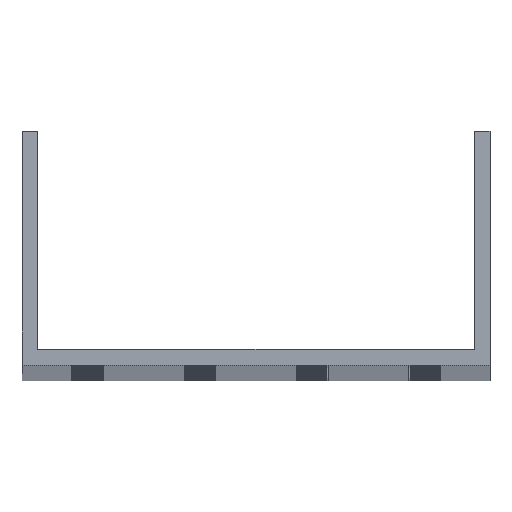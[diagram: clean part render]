
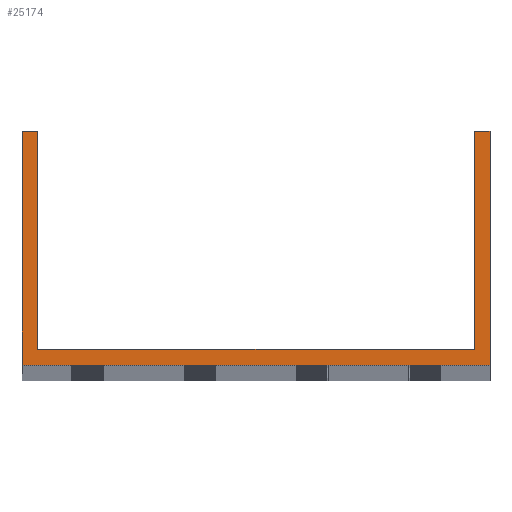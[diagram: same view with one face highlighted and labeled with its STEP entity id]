
A CAD part, top view. The second image highlights one B-rep face of the part: STEP entity #25174.
In plain terms, the highlighted planar face has unit normal (0, 0, 1).
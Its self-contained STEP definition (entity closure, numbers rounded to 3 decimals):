
#790 = CARTESIAN_POINT ( 'NONE',  ( -48.5, 3.5, 1000. ) ) ;
#1239 = CARTESIAN_POINT ( 'NONE',  ( -52., 52., 1000. ) ) ;
#1301 = DIRECTION ( 'NONE',  ( 1., 0., 0. ) ) ;
#1973 = VERTEX_POINT ( 'NONE', #21586 ) ;
#2550 = CARTESIAN_POINT ( 'NONE',  ( 52., 52., 1000. ) ) ;
#2970 = DIRECTION ( 'NONE',  ( 0., 1., 0. ) ) ;
#4193 = ORIENTED_EDGE ( 'NONE', *, *, #5422, .T. ) ;
#4783 = VERTEX_POINT ( 'NONE', #17696 ) ;
#5422 = EDGE_CURVE ( 'NONE', #1973, #24868, #38513, .T. ) ;
#6526 = ORIENTED_EDGE ( 'NONE', *, *, #38693, .T. ) ;
#6535 = VERTEX_POINT ( 'NONE', #13471 ) ;
#6554 = EDGE_CURVE ( 'NONE', #25495, #19148, #26538, .T. ) ;
#6751 = DIRECTION ( 'NONE',  ( 1., 0., 0. ) ) ;
#7322 = CARTESIAN_POINT ( 'NONE',  ( -52., 52., 1000. ) ) ;
#8194 = DIRECTION ( 'NONE',  ( -1., 0., 0. ) ) ;
#8221 = EDGE_CURVE ( 'NONE', #1973, #25495, #16621, .T. ) ;
#9279 = PLANE ( 'NONE',  #19055 ) ;
#9632 = VECTOR ( 'NONE', #34945, 1000. ) ;
#10816 = LINE ( 'NONE', #1239, #9632 ) ;
#11535 = DIRECTION ( 'NONE',  ( 0., 1., 0. ) ) ;
#12117 = LINE ( 'NONE', #2550, #23603 ) ;
#12231 = EDGE_CURVE ( 'NONE', #24868, #4783, #10816, .T. ) ;
#12799 = ORIENTED_EDGE ( 'NONE', *, *, #38316, .T. ) ;
#13306 = VERTEX_POINT ( 'NONE', #34496 ) ;
#13471 = CARTESIAN_POINT ( 'NONE',  ( 48.5, 52., 1000. ) ) ;
#14875 = FACE_OUTER_BOUND ( 'NONE', #30293, .T. ) ;
#14947 = LINE ( 'NONE', #39265, #19607 ) ;
#16621 = LINE ( 'NONE', #22596, #27136 ) ;
#16730 = CARTESIAN_POINT ( 'NONE',  ( 48.5, 3.5, 1000. ) ) ;
#17696 = CARTESIAN_POINT ( 'NONE',  ( -52., 0., 1000. ) ) ;
#18191 = LINE ( 'NONE', #24168, #36954 ) ;
#19055 = AXIS2_PLACEMENT_3D ( 'NONE', #30226, #21434, #27026 ) ;
#19148 = VERTEX_POINT ( 'NONE', #16730 ) ;
#19607 = VECTOR ( 'NONE', #2970, 1000. ) ;
#20585 = VECTOR ( 'NONE', #8194, 1000. ) ;
#20784 = DIRECTION ( 'NONE',  ( -1., 0., 0. ) ) ;
#21434 = DIRECTION ( 'NONE',  ( 0., 0., 1. ) ) ;
#21586 = CARTESIAN_POINT ( 'NONE',  ( -48.5, 52., 1000. ) ) ;
#22071 = ORIENTED_EDGE ( 'NONE', *, *, #6554, .F. ) ;
#22596 = CARTESIAN_POINT ( 'NONE',  ( -48.5, 52., 1000. ) ) ;
#22783 = DIRECTION ( 'NONE',  ( 0., -1., 0. ) ) ;
#23354 = CARTESIAN_POINT ( 'NONE',  ( -52., 3.5, 1000. ) ) ;
#23603 = VECTOR ( 'NONE', #11535, 1000. ) ;
#24168 = CARTESIAN_POINT ( 'NONE',  ( -52., 52., 1000. ) ) ;
#24868 = VERTEX_POINT ( 'NONE', #7322 ) ;
#25174 = ADVANCED_FACE ( 'NONE', ( #14875 ), #9279, .T. ) ;
#25495 = VERTEX_POINT ( 'NONE', #790 ) ;
#26139 = VECTOR ( 'NONE', #6751, 1000. ) ;
#26513 = VECTOR ( 'NONE', #1301, 1000. ) ;
#26538 = LINE ( 'NONE', #23354, #26513 ) ;
#26568 = ORIENTED_EDGE ( 'NONE', *, *, #12231, .T. ) ;
#27026 = DIRECTION ( 'NONE',  ( 1., 0., 0. ) ) ;
#27136 = VECTOR ( 'NONE', #22783, 1000. ) ;
#30226 = CARTESIAN_POINT ( 'NONE',  ( 0., 0., 1000. ) ) ;
#30293 = EDGE_LOOP ( 'NONE', ( #39055, #4193, #26568, #12799, #6526, #35461, #33565, #22071 ) ) ;
#30831 = EDGE_CURVE ( 'NONE', #19148, #6535, #14947, .T. ) ;
#31077 = LINE ( 'NONE', #34264, #26139 ) ;
#31545 = VERTEX_POINT ( 'NONE', #39128 ) ;
#33565 = ORIENTED_EDGE ( 'NONE', *, *, #30831, .F. ) ;
#34264 = CARTESIAN_POINT ( 'NONE',  ( -52., 0., 1000. ) ) ;
#34496 = CARTESIAN_POINT ( 'NONE',  ( 52., 52., 1000. ) ) ;
#34945 = DIRECTION ( 'NONE',  ( 0., -1., 0. ) ) ;
#35461 = ORIENTED_EDGE ( 'NONE', *, *, #36542, .T. ) ;
#35513 = CARTESIAN_POINT ( 'NONE',  ( -52., 52., 1000. ) ) ;
#36542 = EDGE_CURVE ( 'NONE', #13306, #6535, #18191, .T. ) ;
#36954 = VECTOR ( 'NONE', #20784, 1000. ) ;
#38316 = EDGE_CURVE ( 'NONE', #4783, #31545, #31077, .T. ) ;
#38513 = LINE ( 'NONE', #35513, #20585 ) ;
#38693 = EDGE_CURVE ( 'NONE', #31545, #13306, #12117, .T. ) ;
#39055 = ORIENTED_EDGE ( 'NONE', *, *, #8221, .F. ) ;
#39128 = CARTESIAN_POINT ( 'NONE',  ( 52., 0., 1000. ) ) ;
#39265 = CARTESIAN_POINT ( 'NONE',  ( 48.5, 52., 1000. ) ) ;
